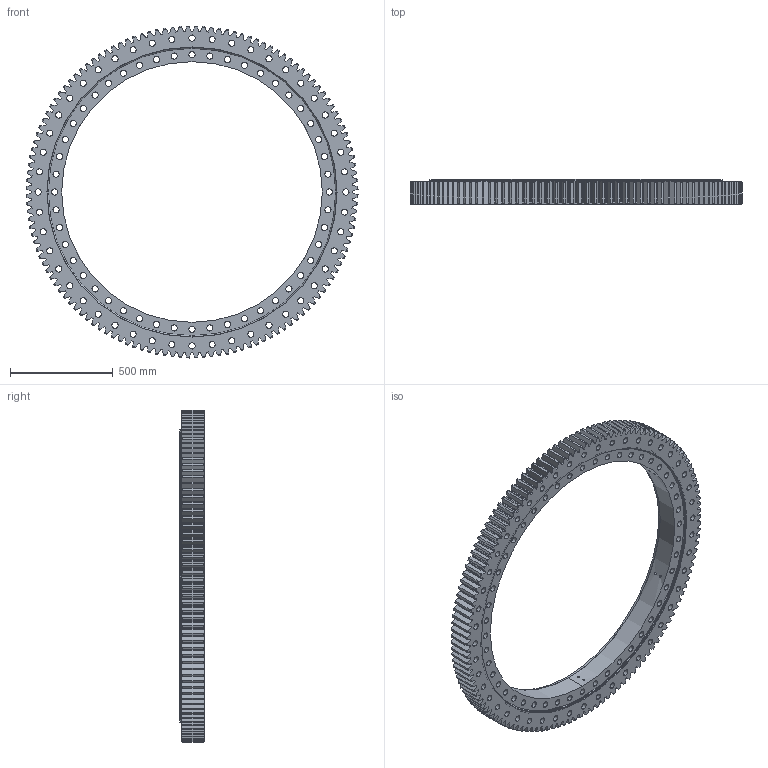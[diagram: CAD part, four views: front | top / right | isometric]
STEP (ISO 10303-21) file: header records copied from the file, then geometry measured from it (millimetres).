
FILE_DESCRIPTION (( 'STEP AP214' ), '1' );
FILE_NAME ('B2230-2-1618AA.STEP', '2022-11-28T14:45:50', ( '' ), ( '' ), 'SwSTEP 2.0', 'SolidWorks 2020', '' );
FILE_SCHEMA (( 'AUTOMOTIVE_DESIGN' ));
Length unit declared in the file: millimetre
Products named in the file (1): B2230-2-1618AA
Bounding box: 1617.36 x 120 x 1617.36 mm (x, y, z)
Volume: 72187681 mm3; surface area: 5258284.7 mm2
Topology: 4 solids, 4 shells, 1247 faces, 3620 edges, 2412 vertices
Faces by surface type: cylinder 408, plane 303, cone 272, bspline 264
Entity records: 44271 total; most frequent: CARTESIAN_POINT 12800, ORIENTED_EDGE 7240, DIRECTION 5528, EDGE_CURVE 3620, VERTEX_POINT 2412, AXIS2_PLACEMENT_3D 2028, EDGE_LOOP 1490, LINE 1472
